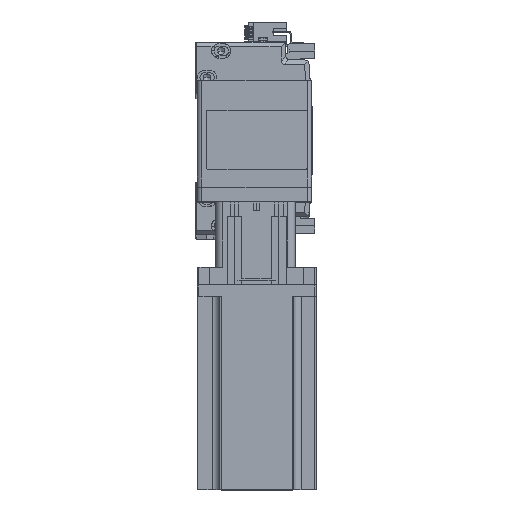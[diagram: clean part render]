
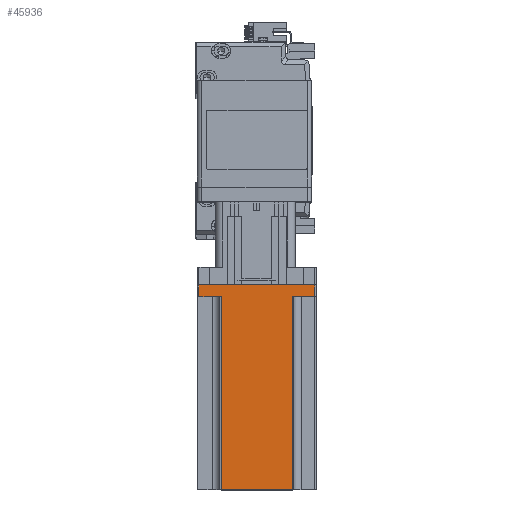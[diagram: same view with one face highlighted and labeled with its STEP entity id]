
A CAD part, top view. The second image highlights one B-rep face of the part: STEP entity #45936.
In plain terms, the highlighted planar face has unit normal (0, 0, 1) as drawn and (0, 1, 0) by its records, which use the part's own axes.
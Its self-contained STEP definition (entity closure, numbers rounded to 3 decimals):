
#764 = LINE ( 'NONE', #44478, #22256 ) ;
#886 = EDGE_CURVE ( 'NONE', #8879, #34143, #59061, .T. ) ;
#994 = CARTESIAN_POINT ( 'NONE',  ( 40., 40., 138.3 ) ) ;
#1148 = ORIENTED_EDGE ( 'NONE', *, *, #15048, .F. ) ;
#1458 = CARTESIAN_POINT ( 'NONE',  ( -24., 40., 138.3 ) ) ;
#4581 = VERTEX_POINT ( 'NONE', #36442 ) ;
#5137 = LINE ( 'NONE', #21037, #52260 ) ;
#5152 = VERTEX_POINT ( 'NONE', #14206 ) ;
#5586 = DIRECTION ( 'NONE',  ( 1., 0., 0. ) ) ;
#6835 = VECTOR ( 'NONE', #58912, 1000. ) ;
#7235 = CARTESIAN_POINT ( 'NONE',  ( 24., 40., 8. ) ) ;
#7752 = DIRECTION ( 'NONE',  ( 0., 0., 1. ) ) ;
#8879 = VERTEX_POINT ( 'NONE', #18945 ) ;
#9845 = ORIENTED_EDGE ( 'NONE', *, *, #12214, .T. ) ;
#10213 = DIRECTION ( 'NONE',  ( 0., 0., 1. ) ) ;
#11477 = CARTESIAN_POINT ( 'NONE',  ( -39., 40., 8. ) ) ;
#12049 = VECTOR ( 'NONE', #7752, 1000. ) ;
#12214 = EDGE_CURVE ( 'NONE', #4581, #8879, #49864, .T. ) ;
#13159 = EDGE_CURVE ( 'NONE', #5152, #4581, #35512, .T. ) ;
#13386 = VERTEX_POINT ( 'NONE', #1458 ) ;
#14206 = CARTESIAN_POINT ( 'NONE',  ( 39., 40., 8. ) ) ;
#15048 = EDGE_CURVE ( 'NONE', #5152, #36055, #764, .T. ) ;
#16209 = EDGE_CURVE ( 'NONE', #40668, #13386, #16988, .T. ) ;
#16988 = LINE ( 'NONE', #37519, #30592 ) ;
#17939 = ORIENTED_EDGE ( 'NONE', *, *, #886, .T. ) ;
#18209 = EDGE_CURVE ( 'NONE', #28203, #13386, #42812, .T. ) ;
#18945 = CARTESIAN_POINT ( 'NONE',  ( -39., 40., 0. ) ) ;
#19536 = CARTESIAN_POINT ( 'NONE',  ( 24., 40., 138.3 ) ) ;
#20331 = LINE ( 'NONE', #47274, #41773 ) ;
#21037 = CARTESIAN_POINT ( 'NONE',  ( -25., 40., 8. ) ) ;
#21211 = EDGE_CURVE ( 'NONE', #34143, #40668, #5137, .T. ) ;
#21347 = CARTESIAN_POINT ( 'NONE',  ( -24., 40., 8. ) ) ;
#22256 = VECTOR ( 'NONE', #49019, 1000. ) ;
#26124 = CARTESIAN_POINT ( 'NONE',  ( -39., 40., 138.3 ) ) ;
#27108 = CARTESIAN_POINT ( 'NONE',  ( 39., 40., 138.3 ) ) ;
#28203 = VERTEX_POINT ( 'NONE', #19536 ) ;
#30592 = VECTOR ( 'NONE', #10213, 1000. ) ;
#30686 = VECTOR ( 'NONE', #35953, 1000. ) ;
#32612 = EDGE_LOOP ( 'NONE', ( #42795, #56274, #48977, #42470, #1148, #51592, #9845, #17939 ) ) ;
#32801 = PLANE ( 'NONE',  #38776 ) ;
#33008 = DIRECTION ( 'NONE',  ( 0., -1., 0. ) ) ;
#34143 = VERTEX_POINT ( 'NONE', #11477 ) ;
#35512 = LINE ( 'NONE', #27108, #6835 ) ;
#35953 = DIRECTION ( 'NONE',  ( -1., 0., 0. ) ) ;
#36055 = VERTEX_POINT ( 'NONE', #7235 ) ;
#36442 = CARTESIAN_POINT ( 'NONE',  ( 39., 40., 0. ) ) ;
#37519 = CARTESIAN_POINT ( 'NONE',  ( -24., 40., 138.3 ) ) ;
#38192 = CARTESIAN_POINT ( 'NONE',  ( 40., 40., 0. ) ) ;
#38776 = AXIS2_PLACEMENT_3D ( 'NONE', #994, #33008, #5586 ) ;
#40106 = FACE_OUTER_BOUND ( 'NONE', #32612, .T. ) ;
#40668 = VERTEX_POINT ( 'NONE', #21347 ) ;
#41773 = VECTOR ( 'NONE', #42858, 1000. ) ;
#42470 = ORIENTED_EDGE ( 'NONE', *, *, #52923, .T. ) ;
#42763 = DIRECTION ( 'NONE',  ( -1., 0., 0. ) ) ;
#42795 = ORIENTED_EDGE ( 'NONE', *, *, #21211, .T. ) ;
#42812 = LINE ( 'NONE', #54005, #30686 ) ;
#42858 = DIRECTION ( 'NONE',  ( 0., 0., -1. ) ) ;
#44478 = CARTESIAN_POINT ( 'NONE',  ( 25., 40., 8. ) ) ;
#45639 = VECTOR ( 'NONE', #42763, 1000. ) ;
#45936 = ADVANCED_FACE ( 'NONE', ( #40106 ), #32801, .F. ) ;
#47274 = CARTESIAN_POINT ( 'NONE',  ( 24., 40., 138.3 ) ) ;
#48374 = DIRECTION ( 'NONE',  ( 1., 0., 0. ) ) ;
#48977 = ORIENTED_EDGE ( 'NONE', *, *, #18209, .F. ) ;
#49019 = DIRECTION ( 'NONE',  ( -1., 0., 0. ) ) ;
#49864 = LINE ( 'NONE', #38192, #45639 ) ;
#51592 = ORIENTED_EDGE ( 'NONE', *, *, #13159, .T. ) ;
#52260 = VECTOR ( 'NONE', #48374, 1000. ) ;
#52923 = EDGE_CURVE ( 'NONE', #28203, #36055, #20331, .T. ) ;
#54005 = CARTESIAN_POINT ( 'NONE',  ( 40., 40., 138.3 ) ) ;
#56274 = ORIENTED_EDGE ( 'NONE', *, *, #16209, .T. ) ;
#58912 = DIRECTION ( 'NONE',  ( 0., 0., -1. ) ) ;
#59061 = LINE ( 'NONE', #26124, #12049 ) ;
